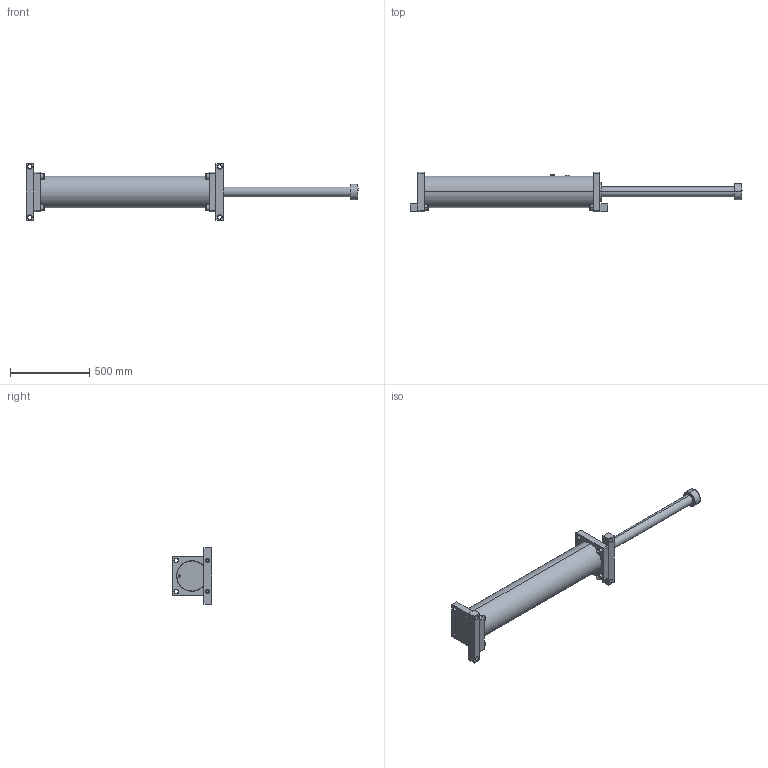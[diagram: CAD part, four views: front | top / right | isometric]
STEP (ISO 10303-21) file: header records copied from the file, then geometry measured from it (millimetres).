
FILE_DESCRIPTION (( 'STEP AP214' ), '1' );
FILE_NAME ('LDD4.0X32.STEP', '2019-01-16T08:53:56', ( 'user' ), ( 'Microsoft' ), 'SwSTEP 2.0', 'SolidWorks 2016', '' );
FILE_SCHEMA (( 'AUTOMOTIVE_DESIGN' ));
Length unit declared in the file: inch
Products named in the file (1): LDD4.0X32
Bounding box: 2098 x 251.5 x 360 mm (x, y, z)
Volume: 18127868.3 mm3; surface area: 2448313.3 mm2
Topology: 19 solids, 19 shells, 607 faces, 1342 edges, 800 vertices
Faces by surface type: cylinder 194, cone 168, plane 135, bspline 110
Entity records: 23716 total; most frequent: CARTESIAN_POINT 10224, DIRECTION 2896, ORIENTED_EDGE 2652, EDGE_CURVE 1326, AXIS2_PLACEMENT_3D 1192, VERTEX_POINT 800, EDGE_LOOP 702, CIRCLE 694
